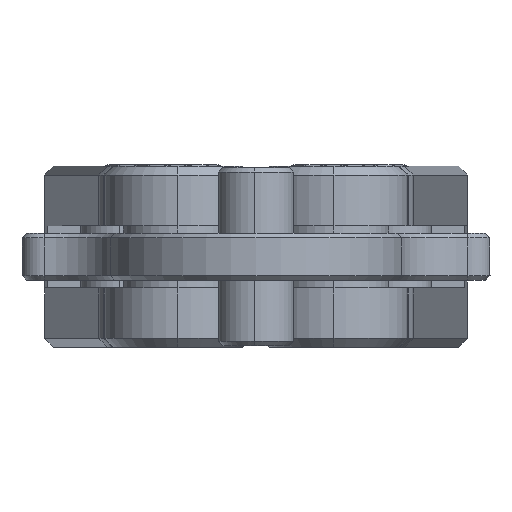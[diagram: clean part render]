
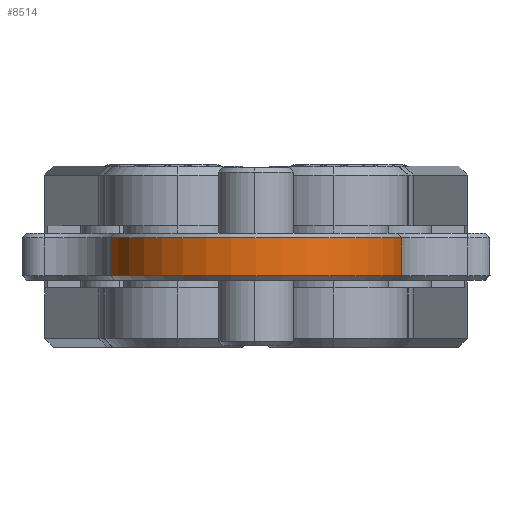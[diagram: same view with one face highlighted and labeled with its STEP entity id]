
A CAD part, front view. The second image highlights one B-rep face of the part: STEP entity #8514.
In plain terms, the highlighted cylindrical face has radius 10 mm (diameter 20 mm), a partial arc.
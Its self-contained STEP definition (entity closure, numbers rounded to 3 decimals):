
#568 = DIRECTION ( 'NONE',  ( 0., 0., -1. ) ) ;
#658 = VERTEX_POINT ( 'NONE', #21117 ) ;
#1723 = CARTESIAN_POINT ( 'NONE',  ( 0., 0., 2.85 ) ) ;
#2415 = AXIS2_PLACEMENT_3D ( 'NONE', #3745, #21468, #7563 ) ;
#3108 = FACE_OUTER_BOUND ( 'NONE', #12710, .T. ) ;
#3419 = VECTOR ( 'NONE', #12545, 1000. ) ;
#3667 = CARTESIAN_POINT ( 'NONE',  ( 0., 0., 0.3 ) ) ;
#3745 = CARTESIAN_POINT ( 'NONE',  ( 0., 0., 3.15 ) ) ;
#4570 = EDGE_CURVE ( 'NONE', #21139, #658, #18930, .T. ) ;
#5832 = AXIS2_PLACEMENT_3D ( 'NONE', #3667, #15730, #15814 ) ;
#5973 = DIRECTION ( 'NONE',  ( 0., 0., -1. ) ) ;
#6385 = CARTESIAN_POINT ( 'NONE',  ( 9.797, -2.005, 3.15 ) ) ;
#7563 = DIRECTION ( 'NONE',  ( -1., 0., 0. ) ) ;
#7983 = ORIENTED_EDGE ( 'NONE', *, *, #10080, .T. ) ;
#8514 = ADVANCED_FACE ( 'NONE', ( #3108 ), #9016, .T. ) ;
#9016 = CYLINDRICAL_SURFACE ( 'NONE', #2415, 10. ) ;
#10080 = EDGE_CURVE ( 'NONE', #658, #25132, #20849, .T. ) ;
#10875 = CARTESIAN_POINT ( 'NONE',  ( 9.797, -2.005, 0.3 ) ) ;
#12545 = DIRECTION ( 'NONE',  ( 0., 0., -1. ) ) ;
#12710 = EDGE_LOOP ( 'NONE', ( #14587, #7983, #20807, #25763 ) ) ;
#14587 = ORIENTED_EDGE ( 'NONE', *, *, #4570, .T. ) ;
#15510 = VECTOR ( 'NONE', #568, 1000. ) ;
#15730 = DIRECTION ( 'NONE',  ( 0., 0., 1. ) ) ;
#15814 = DIRECTION ( 'NONE',  ( 1., 0., 0. ) ) ;
#16670 = CARTESIAN_POINT ( 'NONE',  ( -9.797, -2.005, 3.15 ) ) ;
#18076 = CIRCLE ( 'NONE', #25652, 10. ) ;
#18265 = CARTESIAN_POINT ( 'NONE',  ( -9.797, -2.005, 2.85 ) ) ;
#18758 = CARTESIAN_POINT ( 'NONE',  ( 9.797, -2.005, 2.85 ) ) ;
#18930 = LINE ( 'NONE', #16670, #15510 ) ;
#18977 = VERTEX_POINT ( 'NONE', #18758 ) ;
#20807 = ORIENTED_EDGE ( 'NONE', *, *, #25459, .F. ) ;
#20849 = CIRCLE ( 'NONE', #5832, 10. ) ;
#21117 = CARTESIAN_POINT ( 'NONE',  ( -9.797, -2.005, 0.3 ) ) ;
#21139 = VERTEX_POINT ( 'NONE', #18265 ) ;
#21468 = DIRECTION ( 'NONE',  ( 0., 0., -1. ) ) ;
#21517 = LINE ( 'NONE', #6385, #3419 ) ;
#21882 = DIRECTION ( 'NONE',  ( 1., 0., 0. ) ) ;
#22064 = EDGE_CURVE ( 'NONE', #18977, #21139, #18076, .T. ) ;
#25132 = VERTEX_POINT ( 'NONE', #10875 ) ;
#25459 = EDGE_CURVE ( 'NONE', #18977, #25132, #21517, .T. ) ;
#25652 = AXIS2_PLACEMENT_3D ( 'NONE', #1723, #5973, #21882 ) ;
#25763 = ORIENTED_EDGE ( 'NONE', *, *, #22064, .T. ) ;
